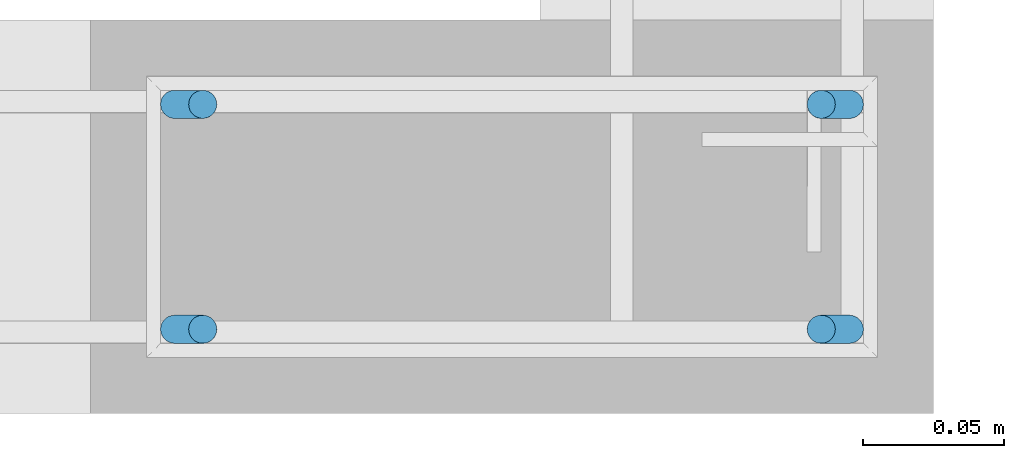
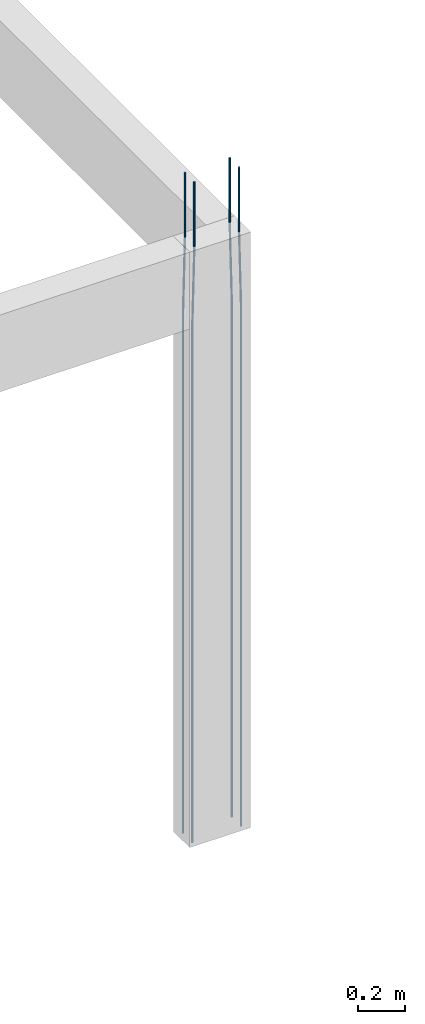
# One storey, part 19 of 236: 4 reinforcing bars.
"""IFC4 building model written with IfcOpenShell, lengths in centimetres."""

from ifc_helpers import new_model, entity, si_unit, derived_unit, frame, origin_with_axes, place, context, project, spatial, element, save


model = new_model("IFC4")

# Units and contexts
model_context = context("Model", 3, precision=1e-05, world=origin_with_axes(), identifier="Body")
ifc_project = project(units=[si_unit("LENGTHUNIT", "METRE", prefix="CENTI"), si_unit("VOLUMEUNIT", "CUBIC_METRE"), si_unit("AREAUNIT", "SQUARE_METRE"), si_unit("POWERUNIT", "WATT"), si_unit("LUMINOUSFLUXUNIT", "LUMEN"), si_unit("ELECTRICCURRENTUNIT", "AMPERE"), si_unit("PRESSUREUNIT", "PASCAL", prefix="KILO"), si_unit("MASSUNIT", "GRAM", prefix="KILO"), si_unit("PLANEANGLEUNIT", "RADIAN"), derived_unit("VOLUMETRICFLOWRATEUNIT", [(si_unit("LENGTHUNIT", "METRE"), 3), (si_unit("TIMEUNIT", "SECOND"), -1)])], contexts=[model_context])

# Site, building, storey
site_placement = place(None, frame((-4000.0, 0.0, 0.0), z_axis=(0.0, 0.0, 1.0), x_axis=(1.0, 0.0, 0.0)))
site = spatial("IfcSite", under=ifc_project, at=site_placement, Name="PADRÃO")
building_placement = place(site_placement, frame((0.0, 0.0, -14.0)))
building = spatial("IfcBuilding", under=site, at=building_placement, Name="CRECHE PRÉ-ESCOLA TIPO 2")
placement_1 = place(building_placement, origin_with_axes())
placement_2 = place(placement_1, frame((0.0, 0.0, 30.0), z_axis=(0.0, 0.0, 1.0), x_axis=(1.0, 0.0, 0.0)))
storey_placement = place(placement_2, frame((0.0, 0.0, 310.0), z_axis=(0.0, 0.0, 1.0), x_axis=(1.0, 0.0, 0.0)))
storey = spatial("IfcBuildingStorey", under=building, at=storey_placement, Name="TERREO", CompositionType="ELEMENT", Elevation=326.0)

# Reinforcing bars
reinforcing_bar_1_placement = place(storey_placement, frame((1365.34, 519.01, 33.3573001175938), z_axis=(0.0, 0.0, 1.0), x_axis=(1.0, 0.0, 0.0)))
element("IfcReinforcingBar", 1, at=reinforcing_bar_1_placement, inside=storey, Name="P138 - Longitudinal", BarLength=0.0, CrossSectionArea=7.853981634e-05, NominalDiameter=1.0, PredefinedType="MAIN", context=model_context, shape_type="AdvancedSweptSolid", body=[
    entity("IfcSweptDiskSolid", entity("IfcCompositeCurve", [entity("IfcCompositeCurveSegment", "CONTINUOUS", True, entity("IfcPolyline", [entity("IfcCartesianPoint", [-0.5, 0.0, -343.357300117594]), entity("IfcCartesianPoint", [-0.5, 0.0, -73.3573001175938])])), entity("IfcCompositeCurveSegment", "CONTINUOUS", True, entity("IfcPolyline", [entity("IfcCartesianPoint", [-0.5, 0.0, -73.3573001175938]), entity("IfcCartesianPoint", [0.5, 0.0, -33.3573001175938])])), entity("IfcCompositeCurveSegment", "CONTINUOUS", True, entity("IfcPolyline", [entity("IfcCartesianPoint", [0.5, 0.0, -33.3573001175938]), entity("IfcCartesianPoint", [0.5, 0.0, 0.0])]))], False), 0.5),
])
for number, where, z_axis, x_axis, name in (
    (2, (1388.34, 519.01, 33.3573001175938), (0.0, 0.0, 1.0), (1.0, 0.0, 0.0), "P138 - Longitudinal"),
    (3, (1388.34, 511.01, 33.3573001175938), (0.0, 0.0, 1.0), (1.0, 0.0, 0.0), "P138 - Longitudinal"),
):
    element("IfcReinforcingBar", number, at=place(storey_placement, frame(where, z_axis=z_axis, x_axis=x_axis)), inside=storey, Name=name, BarLength=0.0, CrossSectionArea=7.853981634e-05, NominalDiameter=1.0, PredefinedType="MAIN", context=model_context, shape_type="AdvancedSweptSolid", body=[
        entity("IfcSweptDiskSolid", entity("IfcCompositeCurve", [entity("IfcCompositeCurveSegment", "CONTINUOUS", True, entity("IfcPolyline", [entity("IfcCartesianPoint", [0.5, 0.0, -343.357300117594]), entity("IfcCartesianPoint", [0.5, 0.0, -73.3573001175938])])), entity("IfcCompositeCurveSegment", "CONTINUOUS", True, entity("IfcPolyline", [entity("IfcCartesianPoint", [0.5, 0.0, -73.3573001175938]), entity("IfcCartesianPoint", [-0.5, 0.0, -33.3573001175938])])), entity("IfcCompositeCurveSegment", "CONTINUOUS", True, entity("IfcPolyline", [entity("IfcCartesianPoint", [-0.5, 0.0, -33.3573001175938]), entity("IfcCartesianPoint", [-0.5, 0.0, 0.0])]))], False), 0.5),
    ])
reinforcing_bar_2_placement = place(storey_placement, frame((1365.34, 511.01, 33.3573001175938), z_axis=(0.0, 0.0, 1.0), x_axis=(1.0, 0.0, 0.0)))
element("IfcReinforcingBar", 4, at=reinforcing_bar_2_placement, inside=storey, Name="P138 - Longitudinal", BarLength=0.0, CrossSectionArea=7.853981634e-05, NominalDiameter=1.0, PredefinedType="MAIN", context=model_context, shape_type="AdvancedSweptSolid", body=[
    entity("IfcSweptDiskSolid", entity("IfcCompositeCurve", [entity("IfcCompositeCurveSegment", "CONTINUOUS", True, entity("IfcPolyline", [entity("IfcCartesianPoint", [-0.5, 0.0, -343.357300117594]), entity("IfcCartesianPoint", [-0.5, 0.0, -73.3573001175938])])), entity("IfcCompositeCurveSegment", "CONTINUOUS", True, entity("IfcPolyline", [entity("IfcCartesianPoint", [-0.5, 0.0, -73.3573001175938]), entity("IfcCartesianPoint", [0.5, 0.0, -33.3573001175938])])), entity("IfcCompositeCurveSegment", "CONTINUOUS", True, entity("IfcPolyline", [entity("IfcCartesianPoint", [0.5, 0.0, -33.3573001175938]), entity("IfcCartesianPoint", [0.5, 0.0, 0.0])]))], False), 0.5),
])

save(model, "model.ifc")
